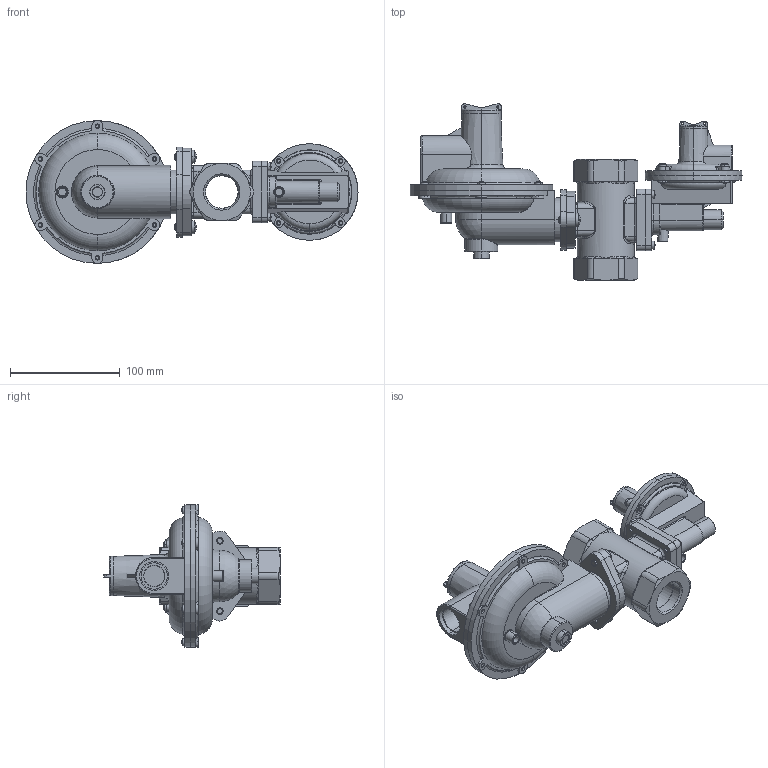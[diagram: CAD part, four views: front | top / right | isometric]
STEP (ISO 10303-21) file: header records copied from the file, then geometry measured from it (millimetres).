
FILE_DESCRIPTION (( 'STEP AP214' ), '1' );
FILE_NAME ('RP-6, RP-10.STEP', '2016-02-04T19:40:21', ( '' ), ( '' ), 'SwSTEP 2.0', 'SolidWorks 2014', '' );
FILE_SCHEMA (( 'AUTOMOTIVE_DESIGN' ));
Length unit declared in the file: millimetre
Products named in the file (14): 68 Deckel SAV; 50 Viko regulace; 1020 Krytka tahla BU; 3 Flansch; 1791 Kryci vicko; 1790 Kryci vicko BU; 49 Teleso regulatoru; RP-6, RP-10; Sroub M6x15; Sroub M4x12; Sroub M4x15; Sroub M4x10; 93 Gehause SAV; 59 Ventilgehause
Assembly tree (25 placements, depth 2):
  RP-6, RP-10
    49 Teleso regulatoru
    1790 Kryci vicko BU
    1791 Kryci vicko
    3 Flansch
    1020 Krytka tahla BU
    50 Viko regulace
    68 Deckel SAV
    59 Ventilgehause
    93 Gehause SAV
    Sroub M4x10  x6
    Sroub M4x15  x4
    Sroub M4x12  x4
    Sroub M6x15  x2
Bounding box: 302.3 x 160.8 x 130 mm (x, y, z)
Volume: 904078.4 mm3; surface area: 202386.7 mm2
Topology: 25 solids, 25 shells, 1075 faces, 2737 edges, 1732 vertices
Faces by surface type: plane 457, cylinder 344, torus 120, cone 73, bspline 48, sphere 33
Entity records: 29207 total; most frequent: CARTESIAN_POINT 8954, DIRECTION 4314, ORIENTED_EDGE 4034, EDGE_CURVE 2017, AXIS2_PLACEMENT_3D 1769, VERTEX_POINT 1276, CIRCLE 990, EDGE_LOOP 919
